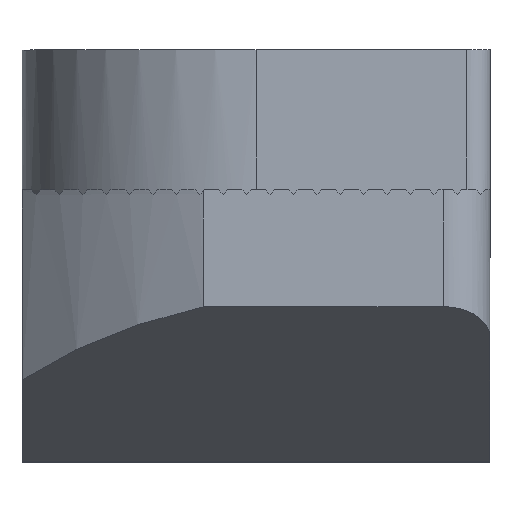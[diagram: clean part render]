
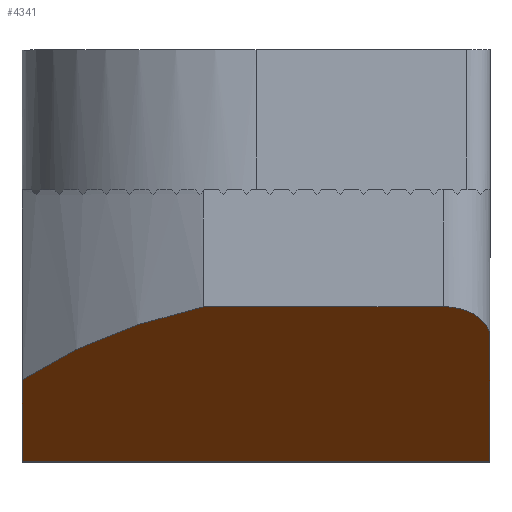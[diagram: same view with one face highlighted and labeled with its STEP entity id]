
A CAD part, top view. The second image highlights one B-rep face of the part: STEP entity #4341.
In plain terms, the highlighted planar face has unit normal (0, -0.835, 0.551).
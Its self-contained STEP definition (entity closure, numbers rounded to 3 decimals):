
#5 = VERTEX_POINT ( 'NONE', #918 ) ;
#61 = CARTESIAN_POINT ( 'NONE',  ( 4.586, -2.5, 9.5 ) ) ;
#74 =( BOUNDED_CURVE ( )  B_SPLINE_CURVE ( 3, ( #1660, #2032, #61, #2820 ),
 .UNSPECIFIED., .F., .T. ) 
 B_SPLINE_CURVE_WITH_KNOTS ( ( 4, 4 ),
 ( 4.712, 6.283 ),
 .UNSPECIFIED. ) 
 CURVE ( )  GEOMETRIC_REPRESENTATION_ITEM ( )  RATIONAL_B_SPLINE_CURVE ( ( 1., 0.805, 0.805, 1. ) ) 
 REPRESENTATION_ITEM ( '' )  );
#161 = CARTESIAN_POINT ( 'NONE',  ( -1.122, -2.5, 9.5 ) ) ;
#212 = EDGE_CURVE ( 'NONE', #5, #3876, #4097, .T. ) ;
#282 = PLANE ( 'NONE',  #2831 ) ;
#287 = CARTESIAN_POINT ( 'NONE',  ( -5., -2.5, 9.5 ) ) ;
#289 = VECTOR ( 'NONE', #291, 1000. ) ;
#291 = DIRECTION ( 'NONE',  ( 1., 0., 0. ) ) ;
#292 = ORIENTED_EDGE ( 'NONE', *, *, #2003, .F. ) ;
#331 = LINE ( 'NONE', #4126, #289 ) ;
#492 = VERTEX_POINT ( 'NONE', #3202 ) ;
#536 = CARTESIAN_POINT ( 'NONE',  ( -2.585, -2.817, 9.019 ) ) ;
#887 = CARTESIAN_POINT ( 'NONE',  ( -5., -4.057, 7.141 ) ) ;
#918 = CARTESIAN_POINT ( 'NONE',  ( -5., -5.8, 4.5 ) ) ;
#1171 = CARTESIAN_POINT ( 'NONE',  ( 4., -2.5, 9.5 ) ) ;
#1232 =( BOUNDED_CURVE ( )  B_SPLINE_CURVE ( 3, ( #2513, #4392, #536, #161 ),
 .UNSPECIFIED., .F., .T. ) 
 B_SPLINE_CURVE_WITH_KNOTS ( ( 4, 4 ),
 ( 5.508, 5.966 ),
 .UNSPECIFIED. ) 
 CURVE ( )  GEOMETRIC_REPRESENTATION_ITEM ( )  RATIONAL_B_SPLINE_CURVE ( ( 1., 0.983, 0.983, 1. ) ) 
 REPRESENTATION_ITEM ( '' )  );
#1463 = VERTEX_POINT ( 'NONE', #2614 ) ;
#1473 = CARTESIAN_POINT ( 'NONE',  ( -1.122, -2.5, 9.5 ) ) ;
#1494 = EDGE_CURVE ( 'NONE', #5, #492, #331, .T. ) ;
#1660 = CARTESIAN_POINT ( 'NONE',  ( 5., -3.16, 8.5 ) ) ;
#2003 = EDGE_CURVE ( 'NONE', #3876, #4079, #1232, .T. ) ;
#2032 = CARTESIAN_POINT ( 'NONE',  ( 5., -2.773, 9.086 ) ) ;
#2097 = VECTOR ( 'NONE', #3205, 1000. ) ;
#2118 = VERTEX_POINT ( 'NONE', #1171 ) ;
#2250 = EDGE_CURVE ( 'NONE', #492, #1463, #3133, .T. ) ;
#2301 = ORIENTED_EDGE ( 'NONE', *, *, #2789, .T. ) ;
#2306 = EDGE_LOOP ( 'NONE', ( #3564, #2301, #2655, #292, #3270, #4219 ) ) ;
#2513 = CARTESIAN_POINT ( 'NONE',  ( -5., -4.057, 7.141 ) ) ;
#2614 = CARTESIAN_POINT ( 'NONE',  ( 5., -3.16, 8.5 ) ) ;
#2655 = ORIENTED_EDGE ( 'NONE', *, *, #4810, .F. ) ;
#2668 = CARTESIAN_POINT ( 'NONE',  ( -5., -2.5, 9.5 ) ) ;
#2789 = EDGE_CURVE ( 'NONE', #1463, #2118, #74, .T. ) ;
#2811 = LINE ( 'NONE', #287, #4794 ) ;
#2815 = FACE_OUTER_BOUND ( 'NONE', #2306, .T. ) ;
#2820 = CARTESIAN_POINT ( 'NONE',  ( 4., -2.5, 9.5 ) ) ;
#2831 = AXIS2_PLACEMENT_3D ( 'NONE', #3029, #4502, #3401 ) ;
#3029 = CARTESIAN_POINT ( 'NONE',  ( -5., -2.5, 9.5 ) ) ;
#3036 = DIRECTION ( 'NONE',  ( 1., 0., 0. ) ) ;
#3133 = LINE ( 'NONE', #3959, #2097 ) ;
#3202 = CARTESIAN_POINT ( 'NONE',  ( 5., -5.8, 4.5 ) ) ;
#3205 = DIRECTION ( 'NONE',  ( 0., 0.551, 0.835 ) ) ;
#3270 = ORIENTED_EDGE ( 'NONE', *, *, #212, .F. ) ;
#3401 = DIRECTION ( 'NONE',  ( 0., 0.551, 0.835 ) ) ;
#3564 = ORIENTED_EDGE ( 'NONE', *, *, #2250, .T. ) ;
#3876 = VERTEX_POINT ( 'NONE', #887 ) ;
#3959 = CARTESIAN_POINT ( 'NONE',  ( 5., -2.5, 9.5 ) ) ;
#4079 = VERTEX_POINT ( 'NONE', #1473 ) ;
#4097 = LINE ( 'NONE', #2668, #4100 ) ;
#4100 = VECTOR ( 'NONE', #4888, 1000. ) ;
#4126 = CARTESIAN_POINT ( 'NONE',  ( -5., -5.8, 4.5 ) ) ;
#4219 = ORIENTED_EDGE ( 'NONE', *, *, #1494, .T. ) ;
#4341 = ADVANCED_FACE ( 'NONE', ( #2815 ), #282, .F. ) ;
#4392 = CARTESIAN_POINT ( 'NONE',  ( -3.901, -3.345, 8.219 ) ) ;
#4502 = DIRECTION ( 'NONE',  ( 0., 0.835, -0.551 ) ) ;
#4794 = VECTOR ( 'NONE', #3036, 1000. ) ;
#4810 = EDGE_CURVE ( 'NONE', #4079, #2118, #2811, .T. ) ;
#4888 = DIRECTION ( 'NONE',  ( 0., 0.551, 0.835 ) ) ;
